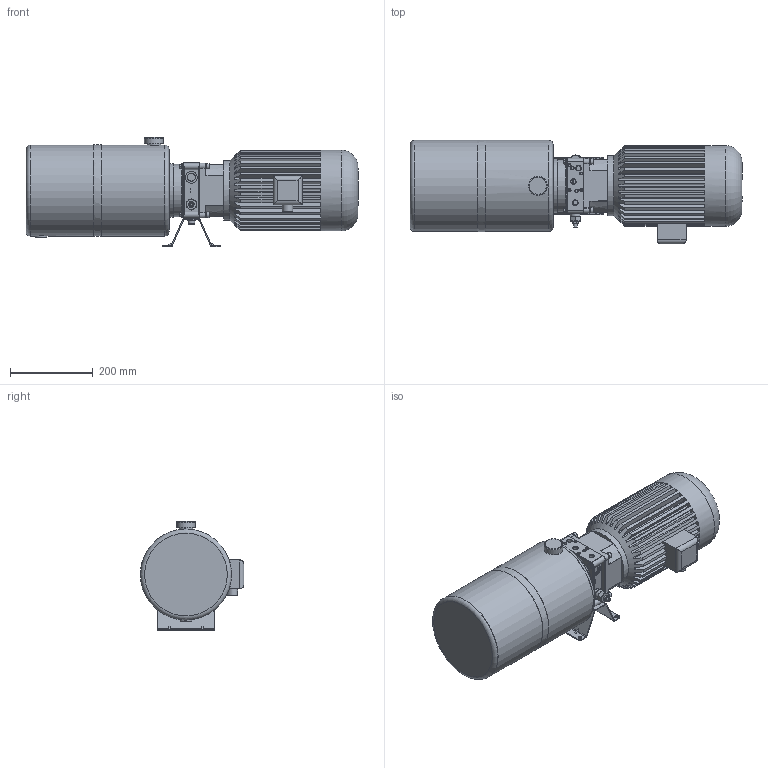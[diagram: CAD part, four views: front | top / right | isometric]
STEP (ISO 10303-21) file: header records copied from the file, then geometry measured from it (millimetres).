
FILE_DESCRIPTION( ( 'Unknown' ), '1' );
FILE_NAME( 'V:/Salhydro/PPC120906__HY-Salhyd1/PPC120906__HY-Salhyd1.stp', 'Unknown', ( 'Unknown' ), ( 'Unknown' ), 'PSStep 17.0.49', 'Unknown', ' ' );
FILE_SCHEMA( ( 'AUTOMOTIVE_DESIGN { 1 0 10303 214 1 1 1 1 }' ) );
Length unit declared in the file: millimetre
Products named in the file (54): C30201000; C30101000; C30301000; P01; PLUGTCE01; WASHR01; E60303012; JE60303012; C86100001; TCNB0800; C30401000; OR4450; E60604009; JE60604009; WASHG08; TCEIM8X90; E36100004; JE36100004; ART051; E70100005; JE70100005; OR173; OR2037; SR012N90; VUC20; VUC20CART; SPR0580176; BALL875; VMDC35A1; JVMDC35A1; E60543007; JE60543007; TCEIM10X18; WASHL10; RETURN-KIT; TR0112; SF12; UA; J; G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
Assembly tree (71 placements, depth 6):
  Assem1
    PP02E77
    C34100005
    UA
      C30401000
        OR4450
        C30301000
          C30201000
            C30101000
    K5,0
      E60604009
        JE60604009
        WASHG08  x2
        TCEIM8X90  x2
    XB14 100-1
      TCEIM8X25  x4
      WASHG08  x4
      E36100000
      F27010004
      E36100004
        JE36100004
        ART051
    J
      VUC20
        VUC20CART
        SPR0580176
        OR173
        OR2037
        SR012N90
        BALL875
        P01
          PLUGTCE01
          WASHR01
    D_180
      VMDC35A1
        JVMDC35A1
        WASHR01
    G
      E70100005
        JE70100005
        OR173
        OR2037
        SR012N90
    RETURN-KIT
      TR0112
      SF12
    12B
      TEM6X10  x4
      E60303012
        JE60303012
        JE60303012
        C86100001
        TCNB0800
    E60543007
      JE60543007
      TCEIM10X18  x2
      WASHL10  x2
    B14220AC344IE2
      B14220AC344IE2
Bounding box: 803 x 250.7 x 264 mm (x, y, z)
Volume: 10461467.9 mm3; surface area: 1476688.6 mm2
Topology: 51 solids, 51 shells, 2389 faces, 5725 edges, 3520 vertices
Faces by surface type: plane 961, cylinder 629, cone 265, bspline 216, torus 209, sphere 71, extrusion 38
Full cylindrical faces by diameter (mm): 4 x4, 4.134 x8, 4.917 x37, 5 x2, 5.5 x1, 5.707 x1, 6 x5, 6.5 x4, 6.647 x20, 7.5 x2, 8 x13, 8.376 x4, 8.5 x2, 9 x4, 9.222 x1, 9.5 x2, 9.8 x2, 9.91 x2, 10 x3, 10.5 x3, 11 x3, 11.445 x17, 11.8 x4, 12 x3, 12.7 x4, 13 x8, 13.1 x4, 13.157 x2, 13.4 x2, 13.47 x2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
Entity records: 111782 total; most frequent: CARTESIAN_POINT 45606, DIRECTION 9912, ORIENTED_EDGE 9478, EDGE_CURVE 4739, AXIS2_PLACEMENT_3D 4054, VERTEX_POINT 3169, EDGE_LOOP 2816, FACE_OUTER_BOUND 2500
